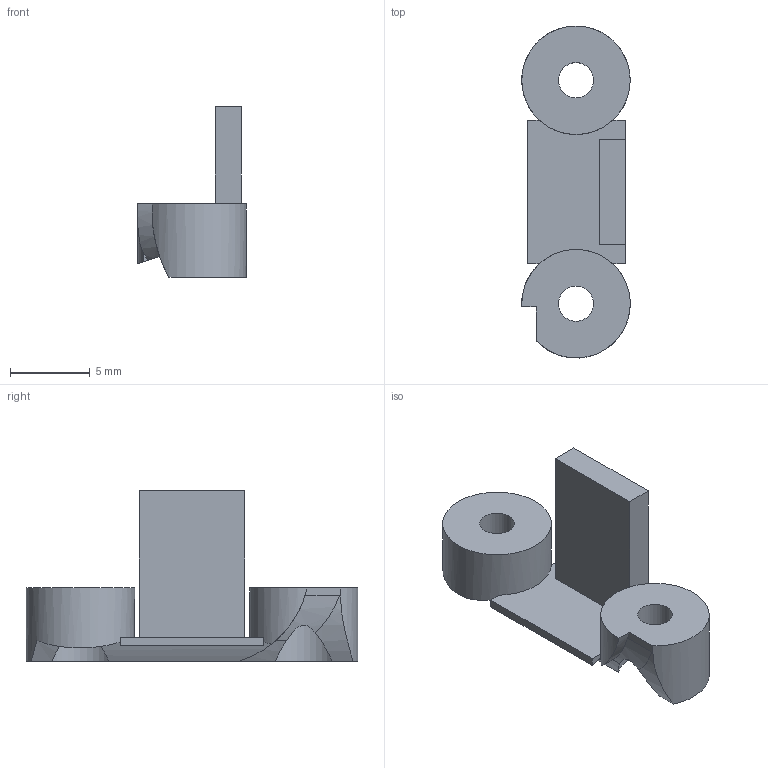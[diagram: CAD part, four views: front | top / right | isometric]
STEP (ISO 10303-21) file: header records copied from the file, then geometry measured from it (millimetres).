
FILE_DESCRIPTION(('Open CASCADE Model'),'2;1');
FILE_NAME('Open CASCADE Shape Model','2026-09-16T15:34:22',('Author'),( 'Open CASCADE'),'Open CASCADE STEP processor 7.7','Open CASCADE 7.7' ,'Unknown');
FILE_SCHEMA(('AUTOMOTIVE_DESIGN { 1 0 10303 214 1 1 1 1 }'));
Length unit declared in the file: millimetre
Products named in the file (1): SOLID
Bounding box: 6.8 x 20.8 x 10.7 mm (x, y, z)
Volume: 372.5 mm3; surface area: 671.4 mm2
Topology: 1 solids, 1 shells, 30 faces, 83 edges, 55 vertices
Faces by surface type: plane 18, cylinder 12
Full cylindrical faces by diameter (mm): 2.2 x2, 4.6 x2, 6.8 x1
Entity records: 2981 total; most frequent: CARTESIAN_POINT 1366, DIRECTION 280, ORIENTED_EDGE 166, PCURVE 166, DEFINITIONAL_REPRESENTATION 166, LINE 154, VECTOR 154, EDGE_CURVE 83
